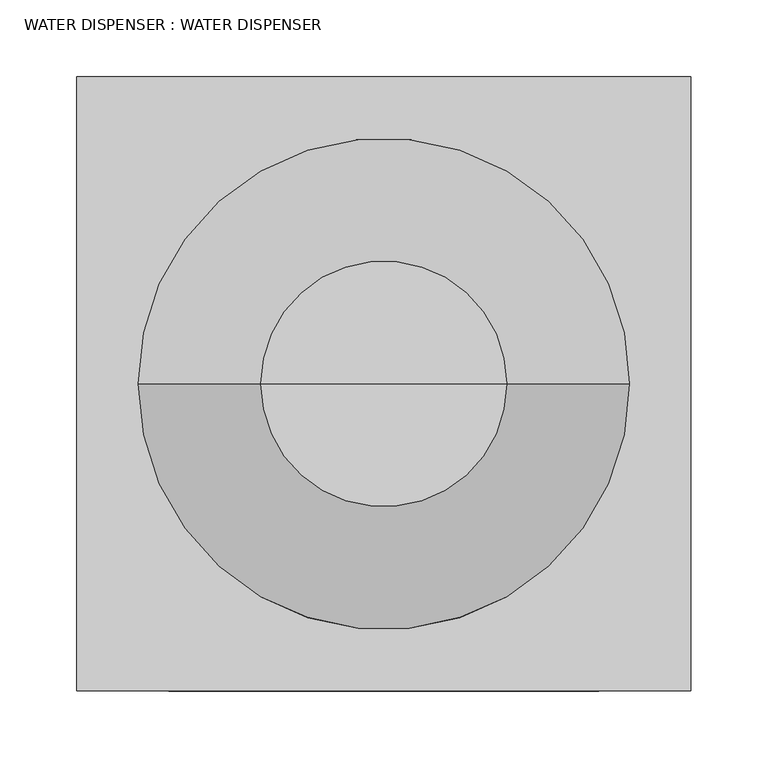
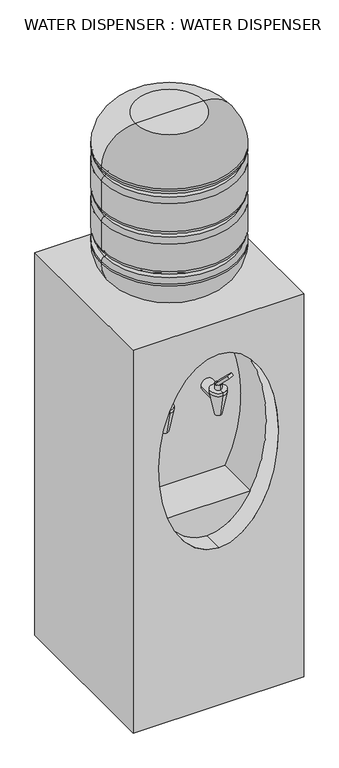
"""IFC4 building model written with IfcOpenShell, lengths in millimetres: proxy geometry, WATER DISPENSER : WATER DISPENSER."""

from ifc_helpers import new_model, si_unit, point, frame, frame_2d, origin, place, context, project, spatial, polyline, circle_curve, ellipse_curve, trimmed, segment, composite_curve, outline, extrude, source, transform, mapped, element, save
from ifc_brep_helpers import plane_surface, cylinder_surface, revolved_surface, extruded_surface, advanced_brep


def water_dispenser_water_dispenser_c049955f(model_context):
    return source(origin(), model_context, "Body", "SolidModel", [
        advanced_brep(
        [(0.0, 0.0, 1350.0), (80.0, 0.0, 1350.0), (-80.0, 0.0, 1350.0), (-80.0, 0.0, 950.0), (80.0, 0.0, 950.0), (0.0, 0.0, 950.0), (-160.0, 0.0, 1030.0), (160.0, 0.0, 1030.0), (-160.0, 0.0, 1034.9526271), (160.0, 0.0, 1034.9526271), (-160.0, 0.0, 1234.1410319), (160.0, 0.0, 1234.1410319), (160.0, 0.0, 1165.1622532), (-160.0, 0.0, 1165.1622532), (-160.0, 0.0, 1270.0), (160.0, 0.0, 1270.0), (160.0, 0.0, 1265.2683819), (-160.0, 0.0, 1265.2683819), (-160.0, 0.0, 1134.265163), (160.0, 0.0, 1134.265163), (160.0, 0.0, 1065.8478032), (-160.0, 0.0, 1065.8478032), (-152.3585127, 0.0, 1254.9192908), (152.3585127, 0.0, 1254.9192908), (152.1069465, 0.0, 1245.4471215), (-152.1069465, 0.0, 1245.4471215), (-152.1888167, 0.0, 1054.8636915), (152.1888167, 0.0, 1054.8636915), (152.3402911, 0.0, 1045.3679192), (-152.3402911, 0.0, 1045.3679192), (-152.3907308, 0.0, 1154.9290946), (152.3907308, 0.0, 1154.9290946), (152.1413553, 0.0, 1145.4346313), (-152.1413553, 0.0, 1145.4346313)],
        [
            (0, 1),
            (1, 2, circle_curve(frame((0.0, 0.0, 1350.0), z_axis=(0.0, 0.0, 1.0), x_axis=(1.0, 0.0, 0.0)), 80.0)),
            (2, 0),
            (2, 1, circle_curve(frame((0.0, 0.0, 1350.0), z_axis=(0.0, 0.0, 1.0), x_axis=(1.0, 0.0, 0.0)), 80.0)),
            (3, 4, circle_curve(frame((0.0, 0.0, 950.0), z_axis=(0.0, 0.0, -1.0), x_axis=(1.0, 0.0, 0.0)), 80.0)),
            (4, 5),
            (5, 3),
            (4, 3, circle_curve(frame((0.0, 0.0, 950.0), z_axis=(0.0, 0.0, -1.0), x_axis=(1.0, 0.0, 0.0)), 80.0)),
            (6, 7, circle_curve(frame((0.0, 0.0, 1030.0), z_axis=(0.0, 0.0, -1.0), x_axis=(1.0, 0.0, 0.0)), 160.0)),
            (7, 4, circle_curve(frame((80.0, 0.0, 1030.0), z_axis=(0.0, 1.0, 0.0), x_axis=(1.0, 0.0, 0.0)), 80.0)),
            (3, 6, circle_curve(frame((-80.0, 0.0, 1030.0), z_axis=(0.0, 1.0, 0.0), x_axis=(-1.0, 0.0, 0.0)), 80.0)),
            (7, 6, circle_curve(frame((0.0, 0.0, 1030.0), z_axis=(0.0, 0.0, -1.0), x_axis=(1.0, 0.0, 0.0)), 160.0)),
            (8, 9, circle_curve(frame((0.0, 0.0, 1034.9526271), z_axis=(0.0, 0.0, -1.0), x_axis=(1.0, 0.0, 0.0)), 160.0)),
            (9, 7),
            (6, 8),
            (9, 8, circle_curve(frame((0.0, 0.0, 1034.9526271), z_axis=(0.0, 0.0, -1.0), x_axis=(1.0, 0.0, 0.0)), 160.0)),
            (10, 11, circle_curve(frame((0.0, 0.0, 1234.1410319), z_axis=(0.0, 0.0, -1.0), x_axis=(1.0, 0.0, 0.0)), 160.0)),
            (11, 12),
            (12, 13, circle_curve(frame((0.0, 0.0, 1165.1622532), z_axis=(0.0, 0.0, 1.0), x_axis=(1.0, 0.0, 0.0)), 160.0)),
            (13, 10),
            (11, 10, circle_curve(frame((0.0, 0.0, 1234.1410319), z_axis=(0.0, 0.0, -1.0), x_axis=(1.0, 0.0, 0.0)), 160.0)),
            (13, 12, circle_curve(frame((0.0, 0.0, 1165.1622532), z_axis=(0.0, 0.0, 1.0), x_axis=(1.0, 0.0, 0.0)), 160.0)),
            (14, 15, circle_curve(frame((0.0, 0.0, 1270.0), z_axis=(0.0, 0.0, -1.0), x_axis=(1.0, 0.0, 0.0)), 160.0)),
            (15, 16),
            (16, 17, circle_curve(frame((0.0, 0.0, 1265.2683819), z_axis=(0.0, 0.0, 1.0), x_axis=(1.0, 0.0, 0.0)), 160.0)),
            (17, 14),
            (15, 14, circle_curve(frame((0.0, 0.0, 1270.0), z_axis=(0.0, 0.0, -1.0), x_axis=(1.0, 0.0, 0.0)), 160.0)),
            (17, 16, circle_curve(frame((0.0, 0.0, 1265.2683819), z_axis=(0.0, 0.0, 1.0), x_axis=(1.0, 0.0, 0.0)), 160.0)),
            (1, 15, circle_curve(frame((80.0, 0.0, 1270.0), z_axis=(0.0, 1.0, 0.0), x_axis=(1.0, 0.0, 0.0)), 80.0)),
            (14, 2, circle_curve(frame((-80.0, 0.0, 1270.0), z_axis=(0.0, 1.0, 0.0), x_axis=(-1.0, 0.0, 0.0)), 80.0)),
            (18, 19, circle_curve(frame((0.0, 0.0, 1134.265163), z_axis=(0.0, 0.0, -1.0), x_axis=(1.0, 0.0, 0.0)), 160.0)),
            (19, 20),
            (20, 21, circle_curve(frame((0.0, 0.0, 1065.8478032), z_axis=(0.0, 0.0, 1.0), x_axis=(1.0, 0.0, 0.0)), 160.0)),
            (21, 18),
            (19, 18, circle_curve(frame((0.0, 0.0, 1134.265163), z_axis=(0.0, 0.0, -1.0), x_axis=(1.0, 0.0, 0.0)), 160.0)),
            (21, 20, circle_curve(frame((0.0, 0.0, 1065.8478032), z_axis=(0.0, 0.0, 1.0), x_axis=(1.0, 0.0, 0.0)), 160.0)),
            (22, 23, circle_curve(frame((0.0, 0.0, 1254.9192908), z_axis=(0.0, 0.0, -1.0), x_axis=(1.0, 0.0, 0.0)), 152.3585127)),
            (23, 24, circle_curve(frame((153.8301904, 0.0, 1250.14078), z_axis=(0.0, -1.0, 0.0), x_axis=(1.0, 0.0, 0.0)), 5.0)),
            (24, 25, circle_curve(frame((0.0, 0.0, 1245.4471215), z_axis=(0.0, 0.0, 1.0), x_axis=(1.0, 0.0, 0.0)), 152.1069465)),
            (25, 22, circle_curve(frame((-153.8301904, 0.0, 1250.14078), z_axis=(0.0, -1.0, 0.0), x_axis=(-1.0, 0.0, 0.0)), 5.0)),
            (23, 22, circle_curve(frame((0.0, 0.0, 1254.9192908), z_axis=(0.0, 0.0, -1.0), x_axis=(1.0, 0.0, 0.0)), 152.3585127)),
            (25, 24, circle_curve(frame((0.0, 0.0, 1245.4471215), z_axis=(0.0, 0.0, 1.0), x_axis=(1.0, 0.0, 0.0)), 152.1069465)),
            (16, 23, circle_curve(frame((149.171217, 0.0, 1265.2683819), z_axis=(0.0, 1.0, 0.0), x_axis=(1.0, 0.0, 0.0)), 10.828783)),
            (22, 17, circle_curve(frame((-149.171217, 0.0, 1265.2683819), z_axis=(0.0, 1.0, 0.0), x_axis=(-1.0, 0.0, 0.0)), 10.828783)),
            (26, 27, circle_curve(frame((0.0, 0.0, 1054.8636915), z_axis=(0.0, 0.0, -1.0), x_axis=(1.0, 0.0, 0.0)), 152.1888167)),
            (27, 28, circle_curve(frame((153.8301904, 0.0, 1050.14078), z_axis=(0.0, -1.0, 0.0), x_axis=(1.0, 0.0, 0.0)), 5.0)),
            (28, 29, circle_curve(frame((0.0, 0.0, 1045.3679192), z_axis=(0.0, 0.0, 1.0), x_axis=(1.0, 0.0, 0.0)), 152.3402911)),
            (29, 26, circle_curve(frame((-153.8301904, 0.0, 1050.14078), z_axis=(0.0, -1.0, 0.0), x_axis=(-1.0, 0.0, 0.0)), 5.0)),
            (27, 26, circle_curve(frame((0.0, 0.0, 1054.8636915), z_axis=(0.0, 0.0, -1.0), x_axis=(1.0, 0.0, 0.0)), 152.1888167)),
            (29, 28, circle_curve(frame((0.0, 0.0, 1045.3679192), z_axis=(0.0, 0.0, 1.0), x_axis=(1.0, 0.0, 0.0)), 152.3402911)),
            (20, 27, circle_curve(frame((148.3714613, 0.0, 1065.8478032), z_axis=(0.0, 1.0, 0.0), x_axis=(1.0, 0.0, 0.0)), 11.6285387)),
            (26, 21, circle_curve(frame((-148.3714613, 0.0, 1065.8478032), z_axis=(0.0, 1.0, 0.0), x_axis=(-1.0, 0.0, 0.0)), 11.6285387)),
            (30, 31, circle_curve(frame((0.0, 0.0, 1154.9290946), z_axis=(0.0, 0.0, -1.0), x_axis=(1.0, 0.0, 0.0)), 152.3907308)),
            (31, 32, circle_curve(frame((153.8301904, 0.0, 1150.14078), z_axis=(0.0, -1.0, 0.0), x_axis=(1.0, 0.0, 0.0)), 5.0)),
            (32, 33, circle_curve(frame((0.0, 0.0, 1145.4346313), z_axis=(0.0, 0.0, 1.0), x_axis=(1.0, 0.0, 0.0)), 152.1413553)),
            (33, 30, circle_curve(frame((-153.8301904, 0.0, 1150.14078), z_axis=(0.0, -1.0, 0.0), x_axis=(-1.0, 0.0, 0.0)), 5.0)),
            (31, 30, circle_curve(frame((0.0, 0.0, 1154.9290946), z_axis=(0.0, 0.0, -1.0), x_axis=(1.0, 0.0, 0.0)), 152.3907308)),
            (33, 32, circle_curve(frame((0.0, 0.0, 1145.4346313), z_axis=(0.0, 0.0, 1.0), x_axis=(1.0, 0.0, 0.0)), 152.1413553)),
            (12, 31, circle_curve(frame((149.3144461, 0.0, 1165.1622532), z_axis=(0.0, 1.0, 0.0), x_axis=(1.0, 0.0, 0.0)), 10.6855539)),
            (30, 13, circle_curve(frame((-149.3144461, 0.0, 1165.1622532), z_axis=(0.0, 1.0, 0.0), x_axis=(-1.0, 0.0, 0.0)), 10.6855539)),
            (24, 11, circle_curve(frame((147.9559948, 0.0, 1234.1410319), z_axis=(0.0, 1.0, 0.0), x_axis=(1.0, 0.0, 0.0)), 12.0440052)),
            (10, 25, circle_curve(frame((-147.9559948, 0.0, 1234.1410319), z_axis=(0.0, 1.0, 0.0), x_axis=(-1.0, 0.0, 0.0)), 12.0440052)),
            (28, 9, circle_curve(frame((149.0890468, 0.0, 1034.9526271), z_axis=(0.0, 1.0, 0.0), x_axis=(1.0, 0.0, 0.0)), 10.9109532)),
            (8, 29, circle_curve(frame((-149.0890468, 0.0, 1034.9526271), z_axis=(0.0, 1.0, 0.0), x_axis=(-1.0, 0.0, 0.0)), 10.9109532)),
            (32, 19, circle_curve(frame((148.1331117, 0.0, 1134.265163), z_axis=(0.0, 1.0, 0.0), x_axis=(1.0, 0.0, 0.0)), 11.8668883)),
            (18, 33, circle_curve(frame((-148.1331117, 0.0, 1134.265163), z_axis=(0.0, 1.0, 0.0), x_axis=(-1.0, 0.0, 0.0)), 11.8668883)),
        ],
        [
            plane_surface(frame((0.0, 0.0, 1350.0), z_axis=(0.0, 0.0, 1.0), x_axis=(1.0, 0.0, 0.0))),
            plane_surface(frame((0.0, 0.0, 950.0), z_axis=(0.0, 0.0, -1.0), x_axis=(1.0, 0.0, 0.0))),
            revolved_surface(trimmed(ellipse_curve(frame((80.0, 0.0, 1030.0), z_axis=(0.0, -1.0, 0.0), x_axis=(1.0, 0.0, 0.0)), 80.0, 80.0), [point((80.0, 0.0, 950.0))], [point((160.0, 0.0, 1030.0))], True, "CARTESIAN"), (0.0, 0.0, 1350.0), (0.0, 0.0, 1.0)),
            cylinder_surface(frame((0.0, 0.0, 1350.0), z_axis=(0.0, 0.0, 1.0), x_axis=(1.0, 0.0, 0.0)), 160.0),
            revolved_surface(trimmed(ellipse_curve(frame((80.0, 0.0, 1270.0), z_axis=(0.0, -1.0, 0.0), x_axis=(1.0, 0.0, 0.0)), 80.0, 80.0), [point((160.0, 0.0, 1270.0))], [point((80.0, 0.0, 1350.0))], True, "CARTESIAN"), (0.0, 0.0, 1350.0), (0.0, 0.0, 1.0)),
            revolved_surface(trimmed(ellipse_curve(frame((153.8301904, 0.0, 1250.14078), z_axis=(0.0, 1.0, 0.0), x_axis=(1.0, 0.0, 0.0)), 5.0, 5.0), [point((152.1069465, 0.0, 1245.4471215))], [point((152.3585127, 0.0, 1254.9192908))], True, "CARTESIAN"), (0.0, 0.0, 1350.0), (0.0, 0.0, 1.0)),
            revolved_surface(trimmed(ellipse_curve(frame((149.171217, 0.0, 1265.2683819), z_axis=(0.0, -1.0, 0.0), x_axis=(1.0, 0.0, 0.0)), 10.828783, 10.828783), [point((152.3585127, 0.0, 1254.9192908))], [point((160.0, 0.0, 1265.2683819))], True, "CARTESIAN"), (0.0, 0.0, 1350.0), (0.0, 0.0, 1.0)),
            revolved_surface(trimmed(ellipse_curve(frame((153.8301904, 0.0, 1050.14078), z_axis=(0.0, 1.0, 0.0), x_axis=(1.0, 0.0, 0.0)), 5.0, 5.0), [point((152.3402911, 0.0, 1045.3679192))], [point((152.1888167, 0.0, 1054.8636915))], True, "CARTESIAN"), (0.0, 0.0, 1350.0), (0.0, 0.0, 1.0)),
            revolved_surface(trimmed(ellipse_curve(frame((148.3714613, 0.0, 1065.8478032), z_axis=(0.0, -1.0, 0.0), x_axis=(1.0, 0.0, 0.0)), 11.6285387, 11.6285387), [point((152.1888167, 0.0, 1054.8636915))], [point((160.0, 0.0, 1065.8478032))], True, "CARTESIAN"), (0.0, 0.0, 1350.0), (0.0, 0.0, 1.0)),
            revolved_surface(trimmed(ellipse_curve(frame((153.8301904, 0.0, 1150.14078), z_axis=(0.0, 1.0, 0.0), x_axis=(1.0, 0.0, 0.0)), 5.0, 5.0), [point((152.1413553, 0.0, 1145.4346313))], [point((152.3907308, 0.0, 1154.9290946))], True, "CARTESIAN"), (0.0, 0.0, 1350.0), (0.0, 0.0, 1.0)),
            revolved_surface(trimmed(ellipse_curve(frame((149.3144461, 0.0, 1165.1622532), z_axis=(0.0, -1.0, 0.0), x_axis=(1.0, 0.0, 0.0)), 10.6855539, 10.6855539), [point((152.3907308, 0.0, 1154.9290946))], [point((160.0, 0.0, 1165.1622532))], True, "CARTESIAN"), (0.0, 0.0, 1350.0), (0.0, 0.0, 1.0)),
            revolved_surface(trimmed(ellipse_curve(frame((147.9559948, 0.0, 1234.1410319), z_axis=(0.0, -1.0, 0.0), x_axis=(1.0, 0.0, 0.0)), 12.0440052, 12.0440052), [point((160.0, 0.0, 1234.1410319))], [point((152.1069465, 0.0, 1245.4471215))], True, "CARTESIAN"), (0.0, 0.0, 1350.0), (0.0, 0.0, 1.0)),
            revolved_surface(trimmed(ellipse_curve(frame((149.0890468, 0.0, 1034.9526271), z_axis=(0.0, -1.0, 0.0), x_axis=(1.0, 0.0, 0.0)), 10.9109532, 10.9109532), [point((160.0, 0.0, 1034.9526271))], [point((152.3402911, 0.0, 1045.3679192))], True, "CARTESIAN"), (0.0, 0.0, 1350.0), (0.0, 0.0, 1.0)),
            revolved_surface(trimmed(ellipse_curve(frame((148.1331117, 0.0, 1134.265163), z_axis=(0.0, -1.0, 0.0), x_axis=(1.0, 0.0, 0.0)), 11.8668883, 11.8668883), [point((160.0, 0.0, 1134.265163))], [point((152.1413553, 0.0, 1145.4346313))], True, "CARTESIAN"), (0.0, 0.0, 1350.0), (0.0, 0.0, 1.0)),
        ],
        [
            (0, [[1, 2, 3]]),
            (0, [[-3, 4, -1]]),
            (1, [[5, 6, 7]]),
            (1, [[8, -7, -6]]),
            (2, [[9, 10, -5, 11]]),
            (2, [[12, -11, -8, -10]]),
            (3, [[13, 14, -9, 15]]),
            (3, [[16, -15, -12, -14]]),
            (3, [[17, 18, 19, 20]]),
            (3, [[21, -20, 22, -18]]),
            (3, [[23, 24, 25, 26]]),
            (3, [[27, -26, 28, -24]]),
            (4, [[-2, 29, -23, 30]]),
            (4, [[-4, -30, -27, -29]]),
            (3, [[31, 32, 33, 34]]),
            (3, [[35, -34, 36, -32]]),
            (5, [[37, 38, 39, 40]]),
            (5, [[41, -40, 42, -38]]),
            (6, [[-25, 43, -37, 44]]),
            (6, [[-28, -44, -41, -43]]),
            (7, [[45, 46, 47, 48]]),
            (7, [[49, -48, 50, -46]]),
            (8, [[-33, 51, -45, 52]]),
            (8, [[-36, -52, -49, -51]]),
            (9, [[53, 54, 55, 56]]),
            (9, [[57, -56, 58, -54]]),
            (10, [[-19, 59, -53, 60]]),
            (10, [[-22, -60, -57, -59]]),
            (11, [[-39, 61, -17, 62]]),
            (11, [[-42, -62, -21, -61]]),
            (12, [[-47, 63, -13, 64]]),
            (12, [[-50, -64, -16, -63]]),
            (13, [[-55, 65, -31, 66]]),
            (13, [[-58, -66, -35, -65]]),
        ],
    ),
        advanced_brep(
        [(200.0, 200.0, 950.0), (-200.0, 200.0, 950.0), (-200.0, -200.0, 950.0), (200.0, -200.0, 950.0), (200.0, 200.0, 0.0), (200.0, -200.0, 0.0), (-200.0, -200.0, 0.0), (-200.0, 200.0, 0.0), (-75.8185314, -200.0, 831.7587589), (0.0, -200.0, 870.0), (75.8185314, -200.0, 831.7587589), (102.627379, -200.0, 466.7587589), (0.0, -200.0, 390.0), (-102.627379, -200.0, 466.7587589), (0.0, -152.0103092, 870.0), (-75.8185314, -152.0103092, 831.7587589), (75.8185314, -152.0103092, 831.7587589), (-102.627379, -152.0103092, 466.7587589), (0.0, -152.0103092, 390.0), (102.627379, -152.0103092, 466.7587589), (75.8185314, -48.0483945, 831.7587589), (-75.8185314, -48.0483945, 831.7587589), (-102.627379, -48.0483945, 466.7587589), (102.627379, -48.0483945, 466.7587589)],
        [
            (0, 1),
            (1, 2),
            (2, 3),
            (3, 0),
            (4, 5),
            (5, 6),
            (6, 7),
            (7, 4),
            (0, 4),
            (7, 1),
            (6, 2),
            (5, 3),
            (8, 9, ellipse_curve(frame((0.0, -200.0, 630.0), z_axis=(0.0, 1.0, 0.0), x_axis=(0.0, 0.0, -1.0)), 240.0, 140.0)),
            (9, 10, ellipse_curve(frame((0.0, -200.0, 630.0), z_axis=(0.0, 1.0, 0.0), x_axis=(0.0, 0.0, -1.0)), 240.0, 140.0)),
            (10, 11, ellipse_curve(frame((0.0, -200.0, 630.0), z_axis=(0.0, 1.0, 0.0), x_axis=(0.0, 0.0, -1.0)), 240.0, 140.0)),
            (11, 12, ellipse_curve(frame((0.0, -200.0, 630.0), z_axis=(0.0, 1.0, 0.0), x_axis=(0.0, 0.0, -1.0)), 240.0, 140.0)),
            (12, 13, ellipse_curve(frame((0.0, -200.0, 630.0), z_axis=(0.0, 1.0, 0.0), x_axis=(0.0, 0.0, -1.0)), 240.0, 140.0)),
            (13, 8, ellipse_curve(frame((0.0, -200.0, 630.0), z_axis=(0.0, 1.0, 0.0), x_axis=(0.0, 0.0, -1.0)), 240.0, 140.0)),
            (14, 15, ellipse_curve(frame((0.0, -152.0103092, 630.0), z_axis=(0.0, -1.0, 0.0), x_axis=(0.0, 0.0, -1.0)), 240.0, 140.0)),
            (15, 16),
            (16, 14, ellipse_curve(frame((0.0, -152.0103092, 630.0), z_axis=(0.0, -1.0, 0.0), x_axis=(0.0, 0.0, -1.0)), 240.0, 140.0)),
            (17, 18, ellipse_curve(frame((0.0, -152.0103092, 630.0), z_axis=(0.0, -1.0, 0.0), x_axis=(0.0, 0.0, -1.0)), 240.0, 140.0)),
            (18, 19, ellipse_curve(frame((0.0, -152.0103092, 630.0), z_axis=(0.0, -1.0, 0.0), x_axis=(0.0, 0.0, -1.0)), 240.0, 140.0)),
            (19, 17),
            (12, 18),
            (17, 15, ellipse_curve(frame((0.0, -152.0103092, 630.0), z_axis=(0.0, 1.0, 0.0), x_axis=(0.0, 0.0, -1.0)), 240.0, 140.0)),
            (14, 9),
            (16, 19, ellipse_curve(frame((0.0, -152.0103092, 630.0), z_axis=(0.0, 1.0, 0.0), x_axis=(0.0, 0.0, -1.0)), 240.0, 140.0)),
            (20, 21),
            (21, 22, ellipse_curve(frame((0.0, -48.0483945, 630.0), z_axis=(0.0, -1.0, 0.0), x_axis=(0.0, 0.0, -1.0)), 240.0, 140.0)),
            (22, 23),
            (23, 20, ellipse_curve(frame((0.0, -48.0483945, 630.0), z_axis=(0.0, -1.0, 0.0), x_axis=(0.0, 0.0, -1.0)), 240.0, 140.0)),
            (20, 16),
            (15, 21),
            (22, 17),
            (19, 23),
        ],
        [
            plane_surface(frame((-592.0465627, 200.0, 950.0), z_axis=(0.0, 0.0, 1.0), x_axis=(-1.0, 0.0, 0.0))),
            plane_surface(frame((-592.0465627, 200.0, 0.0), z_axis=(0.0, 0.0, -1.0), x_axis=(1.0, 0.0, 0.0))),
            plane_surface(frame((200.0, 200.0, 950.0), z_axis=(0.0, 1.0, 0.0), x_axis=(0.0, 0.0, -1.0))),
            plane_surface(frame((-200.0, 200.0, 950.0), z_axis=(-1.0, 0.0, 0.0), x_axis=(0.0, 0.0, -1.0))),
            plane_surface(frame((-200.0, -200.0, 950.0), z_axis=(0.0, -1.0, 0.0), x_axis=(0.0, 0.0, -1.0))),
            plane_surface(frame((200.0, -200.0, 950.0), z_axis=(1.0, 0.0, 0.0), x_axis=(0.0, 0.0, -1.0))),
            plane_surface(frame((0.0, -152.0103092, 390.0), z_axis=(0.0, -1.0, 0.0), x_axis=(-1.0, 0.0, 0.0))),
            extruded_surface(trimmed(ellipse_curve(frame((0.0, -152.0103092, 630.0), z_axis=(0.0, -1.0, 0.0), x_axis=(0.0, 0.0, -1.0)), 240.0, 140.0), [point((0.0, -152.0103092, 870.0))], [point((0.0, -152.0103092, 390.0))], True, "CARTESIAN"), (0.0, 47.98969079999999, 0.0), 47.98969079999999),
            extruded_surface(trimmed(ellipse_curve(frame((0.0, -152.0103092, 630.0), z_axis=(0.0, -1.0, 0.0), x_axis=(0.0, 0.0, -1.0)), 240.0, 140.0), [point((0.0, -152.0103092, 390.0))], [point((0.0, -152.0103092, 870.0))], True, "CARTESIAN"), (0.0, 47.98969079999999, 0.0), 47.98969079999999),
            plane_surface(frame((-133.3470557, -48.0483945, 831.7587589), z_axis=(0.0, -1.0, 0.0), x_axis=(1.0, 0.0, 0.0))),
            plane_surface(frame((75.8185314, -200.0, 831.7587589), z_axis=(0.0, 0.0, -1.0), x_axis=(0.0, 1.0, 0.0))),
            plane_surface(frame((-102.627379, -200.0, 466.7587589), z_axis=(0.0, 0.0, 1.0), x_axis=(0.0, 1.0, 0.0))),
            extruded_surface(trimmed(ellipse_curve(frame((0.0, -48.0483945, 630.0), z_axis=(0.0, -1.0, 0.0), x_axis=(0.0, 0.0, -1.0)), 240.0, 140.0), [point((-75.8185314, -48.0483945, 831.7587589))], [point((-102.627379, -48.0483945, 466.7587589))], True, "CARTESIAN"), (0.0, 151.9516054, 0.0), 151.9516054),
            extruded_surface(trimmed(ellipse_curve(frame((0.0, -48.0483945, 630.0), z_axis=(0.0, -1.0, 0.0), x_axis=(0.0, 0.0, -1.0)), 240.0, 140.0), [point((102.627379, -48.0483945, 466.7587589))], [point((75.8185314, -48.0483945, 831.7587589))], True, "CARTESIAN"), (0.0, 151.9516054, 0.0), 151.9516054),
        ],
        [
            (0, [[1, 2, 3, 4]]),
            (1, [[5, 6, 7, 8]]),
            (2, [[-1, 9, -8, 10]]),
            (3, [[-2, -10, -7, 11]]),
            (4, [[-3, -11, -6, 12], [13, 14, 15, 16, 17, 18]]),
            (5, [[-4, -12, -5, -9]]),
            (6, [[19, 20, 21]]),
            (6, [[22, 23, 24]]),
            (7, [[25, -22, 26, -19, 27, -13, -18, -17]]),
            (8, [[-25, -16, -15, -14, -27, -21, 28, -23]]),
            (9, [[29, 30, 31, 32]]),
            (10, [[-29, 33, -20, 34]]),
            (11, [[-31, 35, -24, 36]]),
            (12, [[-30, -34, -26, -35]]),
            (13, [[-32, -36, -28, -33]]),
        ],
    ),
        extrude(outline(polyline([(-38.5485675, 0.0), (1.4514326, 0.0), (4.3948028, -2.9433702), (-0.0844682, -6.7822585), (-38.5485675, -6.7822585), (-38.5485675, 0.0)])), frame((54.794403, -94.8068137, 716.0127286), z_axis=(0.8829475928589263, 0.4694715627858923, 0.0), x_axis=(-0.3319665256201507, 0.6243382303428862, -0.7071067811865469)), (0.0, 0.0, 1.0), 14.3757054),
        advanced_brep(
        [(61.25, -74.571032, 698.9698864), (61.25, -111.4150595, 698.9698864), (61.25, -100.6445955, 698.9698864), (61.25, -85.3414961, 698.9698864), (61.25, -74.571032, 691.6491471), (61.25, -111.4150595, 691.6491471), (61.25, -85.6185155, 636.9305621), (61.25, -100.367576, 636.9305621), (61.25, -92.9930458, 636.9305621), (61.25, -85.3414961, 711.6935442), (61.25, -100.6445955, 711.6935442), (61.25, -92.9930458, 711.6935442)],
        [
            (0, 1, circle_curve(frame((61.25, -92.9930458, 698.9698864), z_axis=(0.0, 0.0, 1.0), x_axis=(0.0, -1.0, 0.0)), 18.4220138)),
            (1, 2),
            (2, 3, circle_curve(frame((61.25, -92.9930458, 698.9698864), z_axis=(0.0, 0.0, -1.0), x_axis=(0.0, -1.0, 0.0)), 7.6515497)),
            (3, 0),
            (1, 0, circle_curve(frame((61.25, -92.9930458, 698.9698864), z_axis=(0.0, 0.0, 1.0), x_axis=(0.0, -1.0, 0.0)), 18.4220138)),
            (3, 2, circle_curve(frame((61.25, -92.9930458, 698.9698864), z_axis=(0.0, 0.0, -1.0), x_axis=(0.0, -1.0, 0.0)), 7.6515497)),
            (4, 5, circle_curve(frame((61.25, -92.9930458, 691.6491471), z_axis=(0.0, 0.0, 1.0), x_axis=(0.0, -1.0, 0.0)), 18.4220138)),
            (5, 1),
            (0, 4),
            (5, 4, circle_curve(frame((61.25, -92.9930458, 691.6491471), z_axis=(0.0, 0.0, 1.0), x_axis=(0.0, -1.0, 0.0)), 18.4220138)),
            (6, 7, circle_curve(frame((61.25, -92.9930458, 636.9305621), z_axis=(0.0, 0.0, 1.0), x_axis=(0.0, -1.0, 0.0)), 7.3745303)),
            (7, 5),
            (4, 6),
            (7, 6, circle_curve(frame((61.25, -92.9930458, 636.9305621), z_axis=(0.0, 0.0, 1.0), x_axis=(0.0, -1.0, 0.0)), 7.3745303)),
            (8, 7),
            (6, 8),
            (9, 10, circle_curve(frame((61.25, -92.9930458, 711.6935442), z_axis=(0.0, 0.0, 1.0), x_axis=(0.0, -1.0, 0.0)), 7.6515497)),
            (10, 11),
            (11, 9),
            (10, 9, circle_curve(frame((61.25, -92.9930458, 711.6935442), z_axis=(0.0, 0.0, 1.0), x_axis=(0.0, -1.0, 0.0)), 7.6515497)),
            (2, 10),
            (9, 3),
        ],
        [
            plane_surface(frame((61.25, -92.9930458, 698.9698864), z_axis=(0.0, 0.0, 1.0), x_axis=(0.0, -1.0, 0.0))),
            cylinder_surface(frame((61.25, -92.9930458, 698.9698864), z_axis=(0.0, 0.0, -1.0), x_axis=(0.0, -1.0, 0.0)), 18.4220138),
            revolved_surface(polyline([(61.25, -111.4150595, 691.6491471), (61.25, -100.367576, 636.9305621)]), (61.25, -92.9930458, 698.9698864), (0.0, 0.0, -1.0)),
            plane_surface(frame((61.25, -92.9930458, 636.9305621), z_axis=(0.0, 0.0, -1.0), x_axis=(0.0, -1.0, 0.0))),
            plane_surface(frame((61.25, -92.9930458, 711.6935442), z_axis=(0.0, 0.0, 1.0), x_axis=(0.0, -1.0, 0.0))),
            cylinder_surface(frame((61.25, -92.9930458, 698.9698864), z_axis=(0.0, 0.0, -1.0), x_axis=(0.0, -1.0, 0.0)), 7.6515497),
        ],
        [
            (0, [[1, 2, 3, 4]]),
            (0, [[5, -4, 6, -2]]),
            (1, [[7, 8, -1, 9]]),
            (1, [[10, -9, -5, -8]]),
            (2, [[11, 12, -7, 13]]),
            (2, [[14, -13, -10, -12]]),
            (3, [[15, -11, 16]]),
            (3, [[-16, -14, -15]]),
            (4, [[17, 18, 19]]),
            (4, [[20, -19, -18]]),
            (5, [[-3, 21, -17, 22]]),
            (5, [[-6, -22, -20, -21]]),
        ],
    ),
        extrude(outline(composite_curve([segment(trimmed(circle_curve(frame_2d((682.7547058, 61.0214541)), 15.0), [point((682.7547058, 46.0214541))], [point((682.7547058, 76.0214541))], False, "CARTESIAN"), True, "CONTINUOUS"), segment(trimmed(circle_curve(frame_2d((682.7547058, 61.0214541)), 15.0), [point((682.7547058, 76.0214541))], [point((682.7547058, 46.0214541))], False, "CARTESIAN"), True, "CONTINUOUS")], self_intersect=False)), frame((0.0, -85.4622137, 0.0), z_axis=(0.0, 1.0, 0.0), x_axis=(0.0, 0.0, 1.0)), (0.0, 0.0, 1.0), 37.4138192),
        extrude(outline(polyline([(38.5485676, 0.0), (38.5485675, -6.7822585), (0.0844683, -6.7822585), (-4.3948027, -2.9433703), (-1.4514325, -1e-07), (38.5485676, 0.0)])), frame((-56.4841953, -95.0078346, 716.0127286), z_axis=(-0.8480480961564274, 0.5299192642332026, 0.0), x_axis=(-0.37470950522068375, -0.5996605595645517, 0.707106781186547)), (0.0, 0.0, 1.0), 14.3757054),
        advanced_brep(
        [(-63.75, -74.571032, 698.9698864), (-63.75, -111.4150595, 698.9698864), (-63.75, -100.6445955, 698.9698864), (-63.75, -85.3414961, 698.9698864), (-63.75, -74.571032, 691.6491471), (-63.75, -111.4150595, 691.6491471), (-63.75, -85.6185155, 636.9305621), (-63.75, -100.367576, 636.9305621), (-63.75, -92.9930458, 636.9305621), (-63.75, -85.3414961, 711.6935442), (-63.75, -100.6445955, 711.6935442), (-63.75, -92.9930458, 711.6935442)],
        [
            (0, 1, circle_curve(frame((-63.75, -92.9930458, 698.9698864), z_axis=(0.0, 0.0, 1.0), x_axis=(0.0, -1.0, 0.0)), 18.4220138)),
            (1, 2),
            (2, 3, circle_curve(frame((-63.75, -92.9930458, 698.9698864), z_axis=(0.0, 0.0, -1.0), x_axis=(0.0, -1.0, 0.0)), 7.6515497)),
            (3, 0),
            (1, 0, circle_curve(frame((-63.75, -92.9930458, 698.9698864), z_axis=(0.0, 0.0, 1.0), x_axis=(0.0, -1.0, 0.0)), 18.4220138)),
            (3, 2, circle_curve(frame((-63.75, -92.9930458, 698.9698864), z_axis=(0.0, 0.0, -1.0), x_axis=(0.0, -1.0, 0.0)), 7.6515497)),
            (4, 5, circle_curve(frame((-63.75, -92.9930458, 691.6491471), z_axis=(0.0, 0.0, 1.0), x_axis=(0.0, -1.0, 0.0)), 18.4220138)),
            (5, 1),
            (0, 4),
            (5, 4, circle_curve(frame((-63.75, -92.9930458, 691.6491471), z_axis=(0.0, 0.0, 1.0), x_axis=(0.0, -1.0, 0.0)), 18.4220138)),
            (6, 7, circle_curve(frame((-63.75, -92.9930458, 636.9305621), z_axis=(0.0, 0.0, 1.0), x_axis=(0.0, -1.0, 0.0)), 7.3745303)),
            (7, 5),
            (4, 6),
            (7, 6, circle_curve(frame((-63.75, -92.9930458, 636.9305621), z_axis=(0.0, 0.0, 1.0), x_axis=(0.0, -1.0, 0.0)), 7.3745303)),
            (8, 7),
            (6, 8),
            (9, 10, circle_curve(frame((-63.75, -92.9930458, 711.6935442), z_axis=(0.0, 0.0, 1.0), x_axis=(0.0, -1.0, 0.0)), 7.6515497)),
            (10, 11),
            (11, 9),
            (10, 9, circle_curve(frame((-63.75, -92.9930458, 711.6935442), z_axis=(0.0, 0.0, 1.0), x_axis=(0.0, -1.0, 0.0)), 7.6515497)),
            (2, 10),
            (9, 3),
        ],
        [
            plane_surface(frame((-63.75, -92.9930458, 698.9698864), z_axis=(0.0, 0.0, 1.0), x_axis=(0.0, -1.0, 0.0))),
            cylinder_surface(frame((-63.75, -92.9930458, 698.9698864), z_axis=(0.0, 0.0, -1.0), x_axis=(0.0, -1.0, 0.0)), 18.4220138),
            revolved_surface(polyline([(-63.75, -111.4150595, 691.6491471), (-63.75, -100.367576, 636.9305621)]), (-63.75, -92.9930458, 698.9698864), (0.0, 0.0, -1.0)),
            plane_surface(frame((-63.75, -92.9930458, 636.9305621), z_axis=(0.0, 0.0, -1.0), x_axis=(0.0, -1.0, 0.0))),
            plane_surface(frame((-63.75, -92.9930458, 711.6935442), z_axis=(0.0, 0.0, 1.0), x_axis=(0.0, -1.0, 0.0))),
            cylinder_surface(frame((-63.75, -92.9930458, 698.9698864), z_axis=(0.0, 0.0, -1.0), x_axis=(0.0, -1.0, 0.0)), 7.6515497),
        ],
        [
            (0, [[1, 2, 3, 4]]),
            (0, [[5, -4, 6, -2]]),
            (1, [[7, 8, -1, 9]]),
            (1, [[10, -9, -5, -8]]),
            (2, [[11, 12, -7, 13]]),
            (2, [[14, -13, -10, -12]]),
            (3, [[15, -11, 16]]),
            (3, [[-16, -14, -15]]),
            (4, [[17, 18, 19]]),
            (4, [[20, -19, -18]]),
            (5, [[-3, 21, -17, 22]]),
            (5, [[-6, -22, -20, -21]]),
        ],
    ),
        extrude(outline(composite_curve([segment(trimmed(circle_curve(frame_2d((682.7547058, -63.9785459)), 15.0), [point((682.7547058, -78.9785459))], [point((682.7547058, -48.9785459))], False, "CARTESIAN"), True, "CONTINUOUS"), segment(trimmed(circle_curve(frame_2d((682.7547058, -63.9785459)), 15.0), [point((682.7547058, -48.9785459))], [point((682.7547058, -78.9785459))], False, "CARTESIAN"), True, "CONTINUOUS")], self_intersect=False)), frame((0.0, -85.4622137, 0.0), z_axis=(0.0, 1.0, 0.0), x_axis=(0.0, 0.0, 1.0)), (0.0, 0.0, 1.0), 37.4138192),
    ])


if __name__ == "__main__":
    model = new_model("IFC4")
    model_context = context("Model", 3, world=origin())
    ifc_project = project(units=[si_unit("LENGTHUNIT", "METRE", prefix="MILLI")], contexts=[model_context])
    site = spatial("IfcSite", under=ifc_project)
    building = spatial("IfcBuilding", under=site)
    placement = place(None, origin())
    water_dispenser_water_dispenser_shape = water_dispenser_water_dispenser_c049955f(model_context)
    element("IfcBuildingElementProxy", 1, Name="WATER DISPENSER : WATER DISPENSER", ObjectType="WATER DISPENSER : WATER DISPENSER", at=placement, inside=building, context=model_context, shape_type="MappedRepresentation", body=[
        mapped(water_dispenser_water_dispenser_shape, transform((0.0, 0.0, 0.0), x_axis=(1.0, 0.0, 0.0), y_axis=(0.0, 1.0, 0.0), z_axis=(0.0, 0.0, 1.0))),
    ])
    save(model, "model.ifc")
